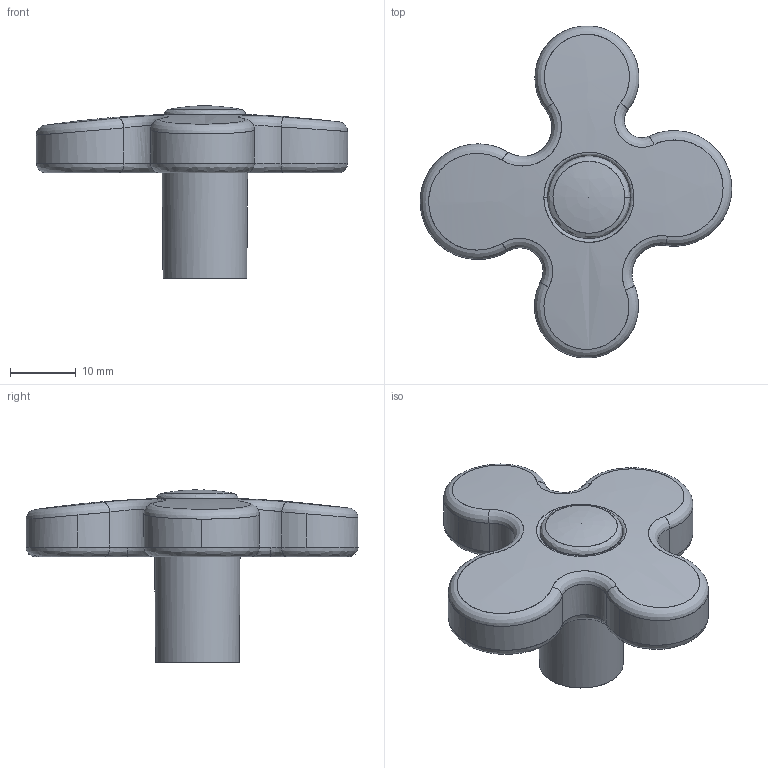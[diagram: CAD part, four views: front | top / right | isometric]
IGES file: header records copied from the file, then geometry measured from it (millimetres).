
Start section: C
Global section: file name: 8116-50.igs; native system: By Siemens PLM Incorporated; preprocessor: XPlus GENERIC/IGES 16.0.42; author: Author; organization: Title; date: 20231126.144838; units: millimetre
Bounding box: 47.37 x 50.48 x 26.2 mm (x, y, z)
Surface area: 6092.6 mm2 (no closed solid volume)
Topology: 0 solids, 0 shells, 50 faces, 261 edges, 260 vertices
Faces by surface type: bspline 50
